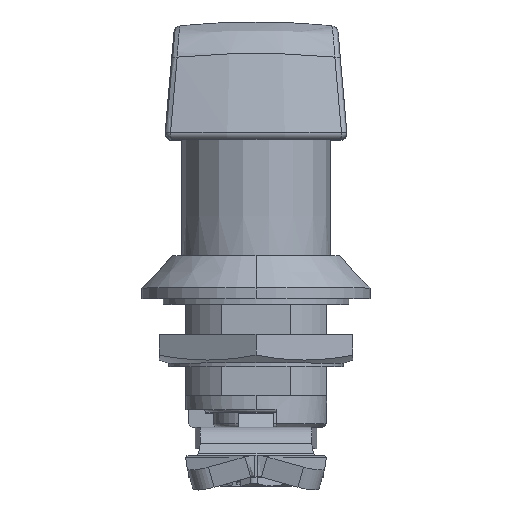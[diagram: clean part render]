
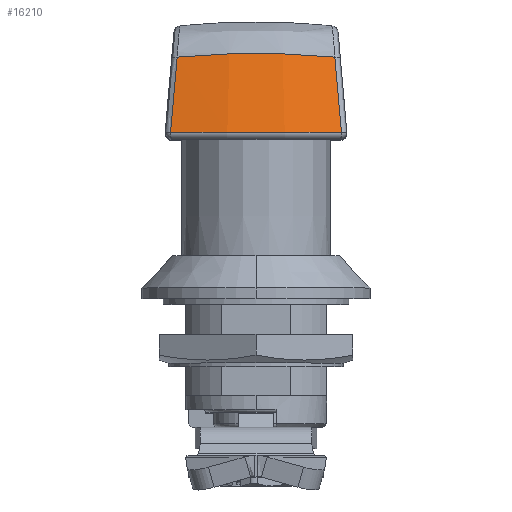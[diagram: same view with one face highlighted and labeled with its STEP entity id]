
A CAD part, top view. The second image highlights one B-rep face of the part: STEP entity #16210.
In plain terms, the highlighted conical face has half-angle 15 degrees and reference radius 47.034 mm.
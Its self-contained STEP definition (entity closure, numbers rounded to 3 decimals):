
#197 = B_SPLINE_CURVE_WITH_KNOTS ( 'NONE', 3,
 ( #25539, #17114, #17524, #2233 ),
 .UNSPECIFIED., .F., .F.,
 ( 4, 4 ),
 ( 0., 0. ),
 .UNSPECIFIED. ) ;
#568 = VERTEX_POINT ( 'NONE', #20480 ) ;
#843 = FACE_OUTER_BOUND ( 'NONE', #5489, .T. ) ;
#1057 = EDGE_CURVE ( 'NONE', #568, #16355, #24834, .T. ) ;
#1267 = VERTEX_POINT ( 'NONE', #2509 ) ;
#1300 = B_SPLINE_CURVE_WITH_KNOTS ( 'NONE', 3,
 ( #3097, #5210, #13477, #15595 ),
 .UNSPECIFIED., .F., .F.,
 ( 4, 4 ),
 ( 0., 0. ),
 .UNSPECIFIED. ) ;
#1519 = CARTESIAN_POINT ( 'NONE',  ( -37.279, 45.931, 11.787 ) ) ;
#1654 = CARTESIAN_POINT ( 'NONE',  ( -35.237, 53.954, 11.081 ) ) ;
#1854 = AXIS2_PLACEMENT_3D ( 'NONE', #12292, #24427, #26524 ) ;
#2233 = CARTESIAN_POINT ( 'NONE',  ( -37.771, 44., 11.957 ) ) ;
#2509 = CARTESIAN_POINT ( 'NONE',  ( -37.771, 44., 11.957 ) ) ;
#2727 = EDGE_CURVE ( 'NONE', #4598, #12298, #7897, .T. ) ;
#3018 = CARTESIAN_POINT ( 'NONE',  ( -35.413, 53.263, -11.142 ) ) ;
#3097 = CARTESIAN_POINT ( 'NONE',  ( -37.771, 44., -11.957 ) ) ;
#3156 = CARTESIAN_POINT ( 'NONE',  ( -35.577, 52.619, -11.199 ) ) ;
#4045 = CARTESIAN_POINT ( 'NONE',  ( -37.773, 44., 11.946 ) ) ;
#4598 = VERTEX_POINT ( 'NONE', #18523 ) ;
#5210 = CARTESIAN_POINT ( 'NONE',  ( -37.772, 44., -11.953 ) ) ;
#5489 = EDGE_LOOP ( 'NONE', ( #8879, #6870, #12071, #26734, #19130, #16834 ) ) ;
#6145 = CARTESIAN_POINT ( 'NONE',  ( -35.086, 54.55, 11.029 ) ) ;
#6387 = CARTESIAN_POINT ( 'NONE',  ( -35.086, 54.55, -11.029 ) ) ;
#6508 = CARTESIAN_POINT ( 'NONE',  ( -35.844, 54.882, -7.402 ) ) ;
#6870 = ORIENTED_EDGE ( 'NONE', *, *, #20440, .T. ) ;
#7897 = CIRCLE ( 'NONE', #23153, 51.187 ) ;
#8242 = CARTESIAN_POINT ( 'NONE',  ( -37.607, 44.644, 11.9 ) ) ;
#8879 = ORIENTED_EDGE ( 'NONE', *, *, #20130, .T. ) ;
#9704 = CARTESIAN_POINT ( 'NONE',  ( 12., 44., 0. ) ) ;
#10572 = CARTESIAN_POINT ( 'NONE',  ( -36.225, 55.053, 3.727 ) ) ;
#11159 = CARTESIAN_POINT ( 'NONE',  ( -35.249, 53.907, -11.085 ) ) ;
#11714 = CARTESIAN_POINT ( 'NONE',  ( -37.771, 44., -11.957 ) ) ;
#12071 = ORIENTED_EDGE ( 'NONE', *, *, #1057, .T. ) ;
#12171 = CARTESIAN_POINT ( 'NONE',  ( -37.443, 45.288, 11.844 ) ) ;
#12292 = CARTESIAN_POINT ( 'NONE',  ( 12., 59.5, 0. ) ) ;
#12298 = VERTEX_POINT ( 'NONE', #4045 ) ;
#12890 = EDGE_CURVE ( 'NONE', #16355, #27181, #20737, .T. ) ;
#13477 = CARTESIAN_POINT ( 'NONE',  ( -37.773, 44., -11.95 ) ) ;
#13827 = CARTESIAN_POINT ( 'NONE',  ( -37.619, 44.596, -11.905 ) ) ;
#14419 = CARTESIAN_POINT ( 'NONE',  ( -36.624, 48.506, 11.561 ) ) ;
#14551 = B_SPLINE_CURVE_WITH_KNOTS ( 'NONE', 3,
 ( #21023, #8242, #12171, #1519, #14419, #22989, #25377, #1654, #14695, #6145 ),
 .UNSPECIFIED., .F., .F.,
 ( 4, 3, 3, 4 ),
 ( 0., 0.002, 0.01, 0.011 ),
 .UNSPECIFIED. ) ;
#14695 = CARTESIAN_POINT ( 'NONE',  ( -35.161, 54.252, 11.055 ) ) ;
#15595 = CARTESIAN_POINT ( 'NONE',  ( -37.773, 44., -11.946 ) ) ;
#15937 = CARTESIAN_POINT ( 'NONE',  ( -37.543, 44.894, -11.878 ) ) ;
#16033 = DIRECTION ( 'NONE',  ( 0., 1., 0. ) ) ;
#16210 = ADVANCED_FACE ( 'NONE', ( #843 ), #23389, .T. ) ;
#16355 = VERTEX_POINT ( 'NONE', #6387 ) ;
#16834 = ORIENTED_EDGE ( 'NONE', *, *, #2727, .T. ) ;
#17039 = CARTESIAN_POINT ( 'NONE',  ( -35.086, 54.55, 11.029 ) ) ;
#17114 = CARTESIAN_POINT ( 'NONE',  ( -37.773, 44., 11.95 ) ) ;
#17524 = CARTESIAN_POINT ( 'NONE',  ( -37.772, 44., 11.953 ) ) ;
#17862 = EDGE_CURVE ( 'NONE', #27181, #4598, #1300, .T. ) ;
#18523 = CARTESIAN_POINT ( 'NONE',  ( -37.773, 44., -11.946 ) ) ;
#19130 = ORIENTED_EDGE ( 'NONE', *, *, #17862, .T. ) ;
#19156 = CARTESIAN_POINT ( 'NONE',  ( -36.225, 55.053, -3.725 ) ) ;
#20130 = EDGE_CURVE ( 'NONE', #12298, #1267, #197, .T. ) ;
#20440 = EDGE_CURVE ( 'NONE', #1267, #568, #14551, .T. ) ;
#20480 = CARTESIAN_POINT ( 'NONE',  ( -35.086, 54.55, 11.029 ) ) ;
#20737 = B_SPLINE_CURVE_WITH_KNOTS ( 'NONE', 3,
 ( #22259, #11159, #3018, #3156, #26616, #24083, #15937, #13827, #22399, #11714 ),
 .UNSPECIFIED., .F., .F.,
 ( 4, 3, 3, 4 ),
 ( 0., 0.002, 0.01, 0.011 ),
 .UNSPECIFIED. ) ;
#21023 = CARTESIAN_POINT ( 'NONE',  ( -37.771, 44., 11.957 ) ) ;
#21309 = CARTESIAN_POINT ( 'NONE',  ( -37.771, 44., -11.957 ) ) ;
#22259 = CARTESIAN_POINT ( 'NONE',  ( -35.086, 54.55, -11.029 ) ) ;
#22399 = CARTESIAN_POINT ( 'NONE',  ( -37.695, 44.298, -11.931 ) ) ;
#22989 = CARTESIAN_POINT ( 'NONE',  ( -35.969, 51.081, 11.334 ) ) ;
#23153 = AXIS2_PLACEMENT_3D ( 'NONE', #9704, #16033, #26850 ) ;
#23389 = CONICAL_SURFACE ( 'NONE', #1854, 47.034, 0.262 ) ;
#24083 = CARTESIAN_POINT ( 'NONE',  ( -36.888, 47.469, -11.652 ) ) ;
#24427 = DIRECTION ( 'NONE',  ( 0., -1., 0. ) ) ;
#24834 = B_SPLINE_CURVE_WITH_KNOTS ( 'NONE', 3,
 ( #17039, #25742, #10572, #19156, #6508, #25332 ),
 .UNSPECIFIED., .F., .F.,
 ( 4, 2, 4 ),
 ( 0.001, 0.012, 0.023 ),
 .UNSPECIFIED. ) ;
#25332 = CARTESIAN_POINT ( 'NONE',  ( -35.086, 54.55, -11.029 ) ) ;
#25377 = CARTESIAN_POINT ( 'NONE',  ( -35.313, 53.656, 11.107 ) ) ;
#25539 = CARTESIAN_POINT ( 'NONE',  ( -37.773, 44., 11.946 ) ) ;
#25742 = CARTESIAN_POINT ( 'NONE',  ( -35.844, 54.882, 7.402 ) ) ;
#26524 = DIRECTION ( 'NONE',  ( 0., 0., -1. ) ) ;
#26616 = CARTESIAN_POINT ( 'NONE',  ( -36.233, 50.044, -11.425 ) ) ;
#26734 = ORIENTED_EDGE ( 'NONE', *, *, #12890, .T. ) ;
#26850 = DIRECTION ( 'NONE',  ( 0., 0., 1. ) ) ;
#27181 = VERTEX_POINT ( 'NONE', #21309 ) ;
